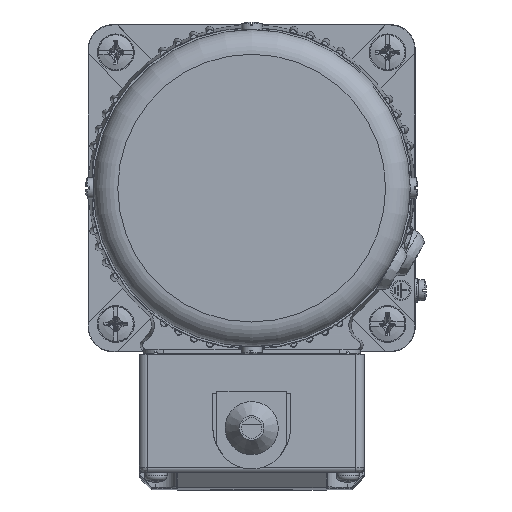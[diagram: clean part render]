
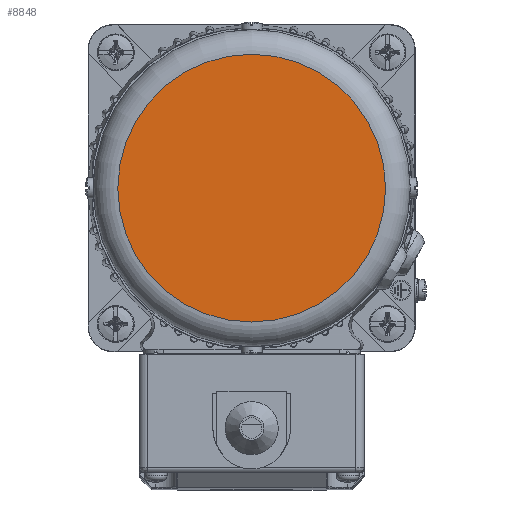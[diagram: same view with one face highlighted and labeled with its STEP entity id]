
A CAD part, left-side view. The second image highlights one B-rep face of the part: STEP entity #8848.
In plain terms, the highlighted planar face has unit normal (-1, 0, 0).
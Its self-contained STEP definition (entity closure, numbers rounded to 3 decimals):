
#3146=PLANE('',#30472);
#4327=FACE_OUTER_BOUND('',#11473,.T.);
#8848=ADVANCED_FACE('',(#4327),#3146,.F.);
#11473=EDGE_LOOP('',(#17729));
#17729=ORIENTED_EDGE('',*,*,#25892,.F.);
#22257=VERTEX_POINT('',#47778);
#25892=EDGE_CURVE('',#22257,#22257,#28323,.T.);
#28323=CIRCLE('',#30397,32.75);
#30397=AXIS2_PLACEMENT_3D('',#47777,#35805,#35806);
#30472=AXIS2_PLACEMENT_3D('',#52924,#35955,#35956);
#35805=DIRECTION('',(1.,0.,0.));
#35806=DIRECTION('',(0.,0.,-1.));
#35955=DIRECTION('',(1.,0.,0.));
#35956=DIRECTION('',(0.,0.,-1.));
#47777=CARTESIAN_POINT('',(-127.5,40.,40.));
#47778=CARTESIAN_POINT('',(-127.5,40.,7.25));
#52924=CARTESIAN_POINT('',(-127.5,40.,40.));
